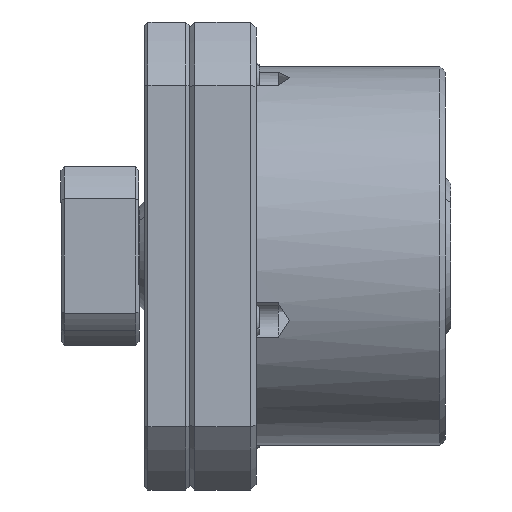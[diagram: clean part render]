
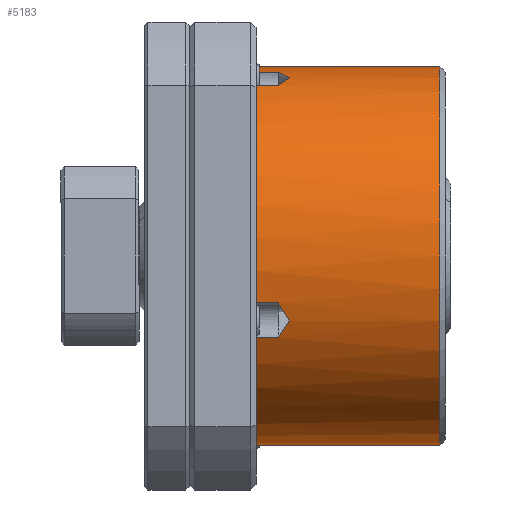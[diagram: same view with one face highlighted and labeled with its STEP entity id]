
A CAD part, front view. The second image highlights one B-rep face of the part: STEP entity #5183.
In plain terms, the highlighted cylindrical face has radius 17 mm (diameter 34 mm), a partial arc.
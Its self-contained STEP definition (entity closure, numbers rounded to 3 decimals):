
#6 = CIRCLE ( 'NONE', #1215, 17. ) ;
#48 = ORIENTED_EDGE ( 'NONE', *, *, #1746, .T. ) ;
#99 = CARTESIAN_POINT ( 'NONE',  ( 9.006, -15.975, -5.814 ) ) ;
#152 = ORIENTED_EDGE ( 'NONE', *, *, #2164, .T. ) ;
#226 = AXIS2_PLACEMENT_3D ( 'NONE', #2446, #2469, #2497 ) ;
#248 = ORIENTED_EDGE ( 'NONE', *, *, #7264, .T. ) ;
#267 = DIRECTION ( 'NONE',  ( 1., 0., 0. ) ) ;
#292 = VERTEX_POINT ( 'NONE', #507 ) ;
#318 = DIRECTION ( 'NONE',  ( 1., 0., 0. ) ) ;
#320 = DIRECTION ( 'NONE',  ( -1., 0., 0. ) ) ;
#333 = DIRECTION ( 'NONE',  ( -1., 0., 0. ) ) ;
#339 = CARTESIAN_POINT ( 'NONE',  ( 22.5, 0., -17. ) ) ;
#507 = CARTESIAN_POINT ( 'NONE',  ( 6., -4.214, 16.469 ) ) ;
#628 = DIRECTION ( 'NONE',  ( -1., 0., 0. ) ) ;
#642 = CARTESIAN_POINT ( 'NONE',  ( 6., 0., 17. ) ) ;
#644 = ORIENTED_EDGE ( 'NONE', *, *, #4417, .T. ) ;
#655 = VERTEX_POINT ( 'NONE', #7062 ) ;
#704 = VECTOR ( 'NONE', #320, 1000. ) ;
#766 = VECTOR ( 'NONE', #7719, 1000. ) ;
#788 = VECTOR ( 'NONE', #333, 1000. ) ;
#795 = CARTESIAN_POINT ( 'NONE',  ( -3.974, 0., 0. ) ) ;
#867 = CIRCLE ( 'NONE', #7709, 17. ) ;
#1047 = CARTESIAN_POINT ( 'NONE',  ( -3.974, 0., 17. ) ) ;
#1143 = EDGE_CURVE ( 'NONE', #1197, #5861, #2552, .T. ) ;
#1159 = EDGE_LOOP ( 'NONE', ( #2289, #6906, #152, #4836, #3143, #7754, #4426, #644, #3834, #248, #48, #1354, #6229, #2675 ) ) ;
#1197 = VERTEX_POINT ( 'NONE', #3499 ) ;
#1199 = CARTESIAN_POINT ( 'NONE',  ( 22.5, 0., 17. ) ) ;
#1215 = AXIS2_PLACEMENT_3D ( 'NONE', #1965, #628, #2669 ) ;
#1354 = ORIENTED_EDGE ( 'NONE', *, *, #7787, .T. ) ;
#1390 = CARTESIAN_POINT ( 'NONE',  ( 8.335, -15.567, -6.855 ) ) ;
#1746 = EDGE_CURVE ( 'NONE', #4038, #5397, #5022, .T. ) ;
#1798 = VERTEX_POINT ( 'NONE', #2744 ) ;
#1965 = CARTESIAN_POINT ( 'NONE',  ( 6., 0., 0. ) ) ;
#2004 = CARTESIAN_POINT ( 'NONE',  ( 9.006, -5.814, 15.975 ) ) ;
#2021 = LINE ( 'NONE', #7625, #6846 ) ;
#2038 = CARTESIAN_POINT ( 'NONE',  ( 8.672, -5.291, 16.165 ) ) ;
#2164 = EDGE_CURVE ( 'NONE', #4962, #6426, #5607, .T. ) ;
#2289 = ORIENTED_EDGE ( 'NONE', *, *, #5473, .F. ) ;
#2298 = VERTEX_POINT ( 'NONE', #4719 ) ;
#2311 = B_SPLINE_CURVE_WITH_KNOTS ( 'NONE', 3,
 ( #99, #7054, #1390, #5838 ),
 .UNSPECIFIED., .F., .F.,
 ( 4, 4 ),
 ( 0., 0.002 ),
 .UNSPECIFIED. ) ;
#2393 = CARTESIAN_POINT ( 'NONE',  ( 8.335, -4.755, 16.331 ) ) ;
#2416 = CARTESIAN_POINT ( 'NONE',  ( 8.335, -6.855, 15.567 ) ) ;
#2446 = CARTESIAN_POINT ( 'NONE',  ( 6., 0., 0. ) ) ;
#2469 = DIRECTION ( 'NONE',  ( -1., 0., 0. ) ) ;
#2491 = LINE ( 'NONE', #3931, #766 ) ;
#2497 = DIRECTION ( 'NONE',  ( 0., 0., 1. ) ) ;
#2552 = B_SPLINE_CURVE_WITH_KNOTS ( 'NONE', 3,
 ( #2727, #2642, #2416, #2762 ),
 .UNSPECIFIED., .F., .F.,
 ( 4, 4 ),
 ( 0., 0.002 ),
 .UNSPECIFIED. ) ;
#2596 = CYLINDRICAL_SURFACE ( 'NONE', #7349, 17. ) ;
#2623 = CARTESIAN_POINT ( 'NONE',  ( 8., -4.214, 16.469 ) ) ;
#2633 = CARTESIAN_POINT ( 'NONE',  ( 6., 0., 0. ) ) ;
#2641 = CARTESIAN_POINT ( 'NONE',  ( 9.006, -15.975, -5.814 ) ) ;
#2642 = CARTESIAN_POINT ( 'NONE',  ( 8.671, -6.339, 15.784 ) ) ;
#2669 = DIRECTION ( 'NONE',  ( 0., 0., 1. ) ) ;
#2675 = ORIENTED_EDGE ( 'NONE', *, *, #4007, .F. ) ;
#2727 = CARTESIAN_POINT ( 'NONE',  ( 9.006, -5.814, 15.975 ) ) ;
#2739 = EDGE_CURVE ( 'NONE', #292, #6426, #5999, .T. ) ;
#2744 = CARTESIAN_POINT ( 'NONE',  ( 8., -15.325, -7.358 ) ) ;
#2762 = CARTESIAN_POINT ( 'NONE',  ( 8., -7.358, 15.325 ) ) ;
#2780 = VERTEX_POINT ( 'NONE', #4273 ) ;
#2986 = DIRECTION ( 'NONE',  ( -1., 0., 0. ) ) ;
#3035 = LINE ( 'NONE', #4117, #3222 ) ;
#3113 = B_SPLINE_CURVE_WITH_KNOTS ( 'NONE', 3,
 ( #2623, #2393, #2038, #2004 ),
 .UNSPECIFIED., .F., .F.,
 ( 4, 4 ),
 ( 0.002, 0.004 ),
 .UNSPECIFIED. ) ;
#3143 = ORIENTED_EDGE ( 'NONE', *, *, #7429, .T. ) ;
#3192 = CARTESIAN_POINT ( 'NONE',  ( 22.5, 0., 0. ) ) ;
#3218 = DIRECTION ( 'NONE',  ( 0., 0., 1. ) ) ;
#3222 = VECTOR ( 'NONE', #318, 1000. ) ;
#3427 = VERTEX_POINT ( 'NONE', #7162 ) ;
#3444 = VERTEX_POINT ( 'NONE', #339 ) ;
#3499 = CARTESIAN_POINT ( 'NONE',  ( 9.006, -5.814, 15.975 ) ) ;
#3834 = ORIENTED_EDGE ( 'NONE', *, *, #6006, .F. ) ;
#3878 = DIRECTION ( 'NONE',  ( -1., 0., 0. ) ) ;
#3931 = CARTESIAN_POINT ( 'NONE',  ( -3.974, 0., -17. ) ) ;
#3990 = EDGE_CURVE ( 'NONE', #3444, #4962, #4879, .T. ) ;
#4007 = EDGE_CURVE ( 'NONE', #6551, #3427, #6, .T. ) ;
#4038 = VERTEX_POINT ( 'NONE', #7661 ) ;
#4108 = EDGE_CURVE ( 'NONE', #655, #1197, #3113, .T. ) ;
#4116 = LINE ( 'NONE', #4714, #5634 ) ;
#4117 = CARTESIAN_POINT ( 'NONE',  ( 4., -16.469, -4.214 ) ) ;
#4139 = CARTESIAN_POINT ( 'NONE',  ( 4., -7.358, 15.325 ) ) ;
#4234 = EDGE_CURVE ( 'NONE', #1798, #3427, #2021, .T. ) ;
#4273 = CARTESIAN_POINT ( 'NONE',  ( 6., -16.469, -4.214 ) ) ;
#4417 = EDGE_CURVE ( 'NONE', #5861, #2298, #7514, .T. ) ;
#4426 = ORIENTED_EDGE ( 'NONE', *, *, #1143, .T. ) ;
#4592 = DIRECTION ( 'NONE',  ( 0., 0., 1. ) ) ;
#4714 = CARTESIAN_POINT ( 'NONE',  ( 4., -4.214, 16.469 ) ) ;
#4719 = CARTESIAN_POINT ( 'NONE',  ( 6., -7.358, 15.325 ) ) ;
#4836 = ORIENTED_EDGE ( 'NONE', *, *, #2739, .F. ) ;
#4879 = CIRCLE ( 'NONE', #7282, 17. ) ;
#4962 = VERTEX_POINT ( 'NONE', #1199 ) ;
#5022 = B_SPLINE_CURVE_WITH_KNOTS ( 'NONE', 3,
 ( #7518, #7140, #7551, #7575 ),
 .UNSPECIFIED., .F., .F.,
 ( 4, 4 ),
 ( 0.002, 0.004 ),
 .UNSPECIFIED. ) ;
#5176 = DIRECTION ( 'NONE',  ( 0., 0., 1. ) ) ;
#5183 = ADVANCED_FACE ( 'NONE', ( #7773 ), #2596, .T. ) ;
#5247 = DIRECTION ( 'NONE',  ( -1., 0., 0. ) ) ;
#5251 = CARTESIAN_POINT ( 'NONE',  ( 6., 0., -17. ) ) ;
#5397 = VERTEX_POINT ( 'NONE', #2641 ) ;
#5473 = EDGE_CURVE ( 'NONE', #3444, #6551, #2491, .T. ) ;
#5607 = LINE ( 'NONE', #1047, #704 ) ;
#5634 = VECTOR ( 'NONE', #267, 1000. ) ;
#5838 = CARTESIAN_POINT ( 'NONE',  ( 8., -15.325, -7.358 ) ) ;
#5861 = VERTEX_POINT ( 'NONE', #8085 ) ;
#5999 = CIRCLE ( 'NONE', #226, 17. ) ;
#6006 = EDGE_CURVE ( 'NONE', #2780, #2298, #867, .T. ) ;
#6229 = ORIENTED_EDGE ( 'NONE', *, *, #4234, .T. ) ;
#6426 = VERTEX_POINT ( 'NONE', #642 ) ;
#6551 = VERTEX_POINT ( 'NONE', #5251 ) ;
#6846 = VECTOR ( 'NONE', #3878, 1000. ) ;
#6906 = ORIENTED_EDGE ( 'NONE', *, *, #3990, .T. ) ;
#7012 = DIRECTION ( 'NONE',  ( -1., 0., 0. ) ) ;
#7054 = CARTESIAN_POINT ( 'NONE',  ( 8.671, -15.784, -6.339 ) ) ;
#7062 = CARTESIAN_POINT ( 'NONE',  ( 8., -4.214, 16.469 ) ) ;
#7140 = CARTESIAN_POINT ( 'NONE',  ( 8.335, -16.331, -4.755 ) ) ;
#7162 = CARTESIAN_POINT ( 'NONE',  ( 6., -15.325, -7.358 ) ) ;
#7264 = EDGE_CURVE ( 'NONE', #2780, #4038, #3035, .T. ) ;
#7282 = AXIS2_PLACEMENT_3D ( 'NONE', #3192, #2986, #5176 ) ;
#7349 = AXIS2_PLACEMENT_3D ( 'NONE', #795, #5247, #4592 ) ;
#7429 = EDGE_CURVE ( 'NONE', #292, #655, #4116, .T. ) ;
#7514 = LINE ( 'NONE', #4139, #788 ) ;
#7518 = CARTESIAN_POINT ( 'NONE',  ( 8., -16.469, -4.214 ) ) ;
#7551 = CARTESIAN_POINT ( 'NONE',  ( 8.672, -16.165, -5.291 ) ) ;
#7575 = CARTESIAN_POINT ( 'NONE',  ( 9.006, -15.975, -5.814 ) ) ;
#7625 = CARTESIAN_POINT ( 'NONE',  ( 4., -15.325, -7.358 ) ) ;
#7661 = CARTESIAN_POINT ( 'NONE',  ( 8., -16.469, -4.214 ) ) ;
#7709 = AXIS2_PLACEMENT_3D ( 'NONE', #2633, #7012, #3218 ) ;
#7719 = DIRECTION ( 'NONE',  ( -1., 0., 0. ) ) ;
#7754 = ORIENTED_EDGE ( 'NONE', *, *, #4108, .T. ) ;
#7773 = FACE_OUTER_BOUND ( 'NONE', #1159, .T. ) ;
#7787 = EDGE_CURVE ( 'NONE', #5397, #1798, #2311, .T. ) ;
#8085 = CARTESIAN_POINT ( 'NONE',  ( 8., -7.358, 15.325 ) ) ;
